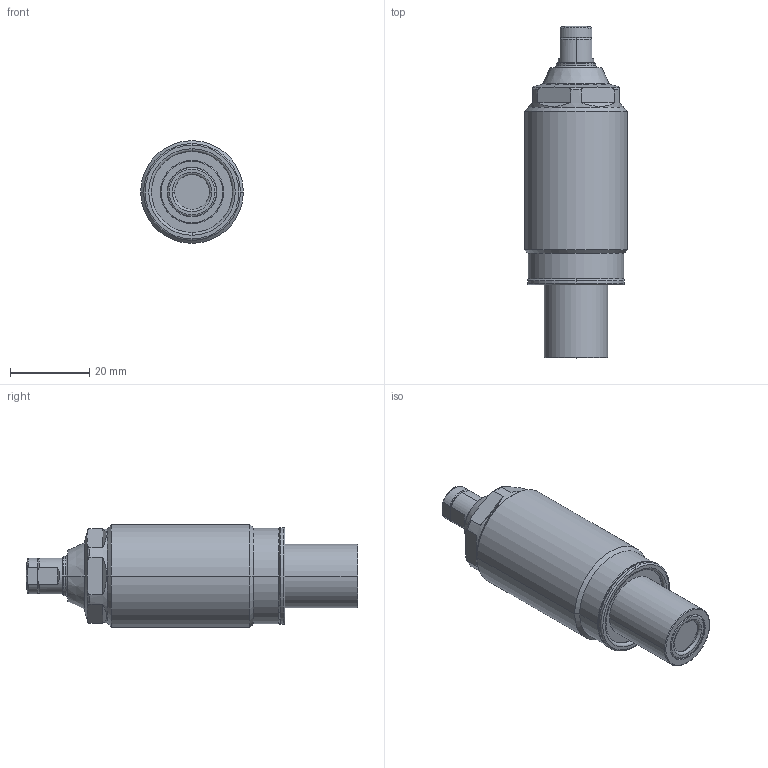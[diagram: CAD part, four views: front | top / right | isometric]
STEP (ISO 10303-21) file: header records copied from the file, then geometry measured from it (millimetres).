
FILE_DESCRIPTION(/* description */ (''),/* implementation_level */ '2;1');
FILE_NAME(/* name */ 'TNL26-Q.stp',/* time_stamp */ '2024-01-16T09:15:29+08:00',/* author */ (''),/* organization */ (''),/* preprocessor_version */ 'ST-DEVELOPER v16.7',/* originating_system */ 'SIEMENS PLM Software NX 12.0',/* authorisation */ '');
FILE_SCHEMA (('AP203_CONFIGURATION_CONTROLLED_3D_DESIGN_OF_MECHANICAL_PARTS_AND_ASSEMBLIES_MIM_LF { 1 0 10303 403 2 1 2}'));
Length unit declared in the file: millimetre
Products named in the file (6): TNL26-Q-5; TNL26-Q-4; TNL26-Q-3; TNL26-Q-2; TNL26-Q-1; WNC0603-Q_step
Assembly tree (5 placements, depth 2):
  WNC0603-Q_step
    TNL26-Q-1
    TNL26-Q-2
    TNL26-Q-3
    TNL26-Q-4
    TNL26-Q-5
Bounding box: 26 x 84 x 26 mm (x, y, z)
Volume: 30151.1 mm3; surface area: 8232.1 mm2
Topology: 5 solids, 5 shells, 147 faces, 324 edges, 196 vertices
Faces by surface type: torus 51, cylinder 40, plane 36, cone 18, sphere 2
Entity records: 5145 total; most frequent: CARTESIAN_POINT 1147, DIRECTION 782, ORIENTED_EDGE 648, AXIS2_PLACEMENT_3D 347, EDGE_CURVE 324, VERTEX_POINT 196, CIRCLE 194, EDGE_LOOP 162
